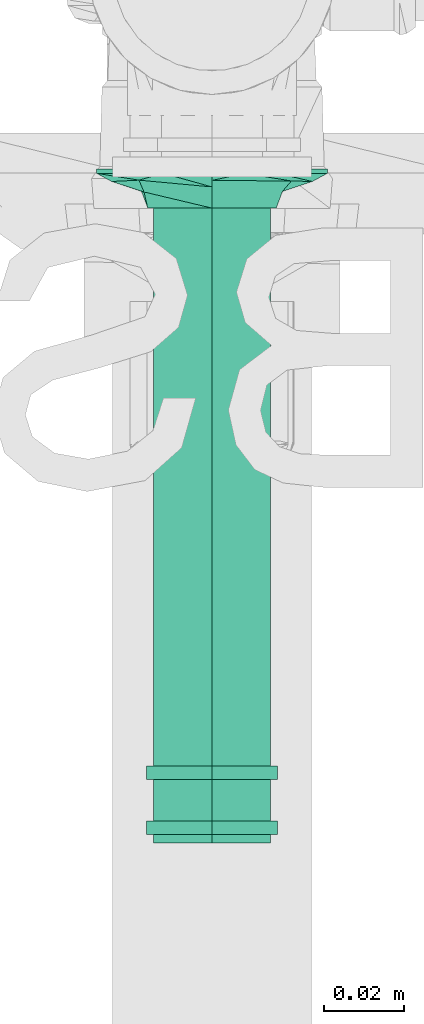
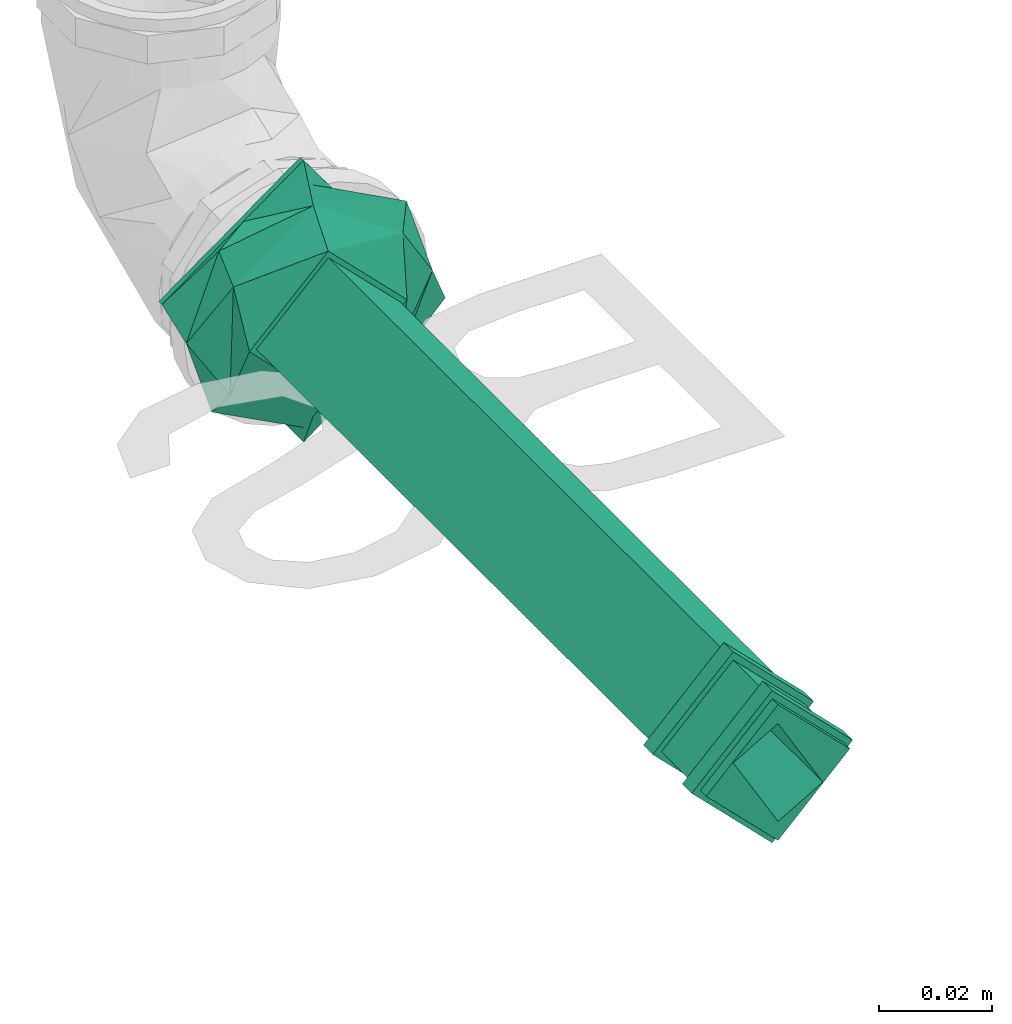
# One storey, part 152 of 589: 1 flow fitting.
"""IFC2X3 building model written with IfcOpenShell, lengths in millimetres."""

from ifc_helpers import new_model, entity, si_unit, converted_unit, derived_unit, direction, frame, origin, place, context, subcontext, project, spatial, faceted_brep, source, transform, mapped, material, type_object, type_shapes, element, save


model = new_model("IFC2X3")

# Units and contexts
model_context = context("Model", 3, precision=0.01, world=origin(), true_north=direction((6.123031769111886e-17, 1.0)))
body_context = subcontext(model_context, "Body", "Model", "MODEL_VIEW")
ifc_project = project(units=[si_unit("LENGTHUNIT", "METRE", prefix="MILLI"), si_unit("AREAUNIT", "SQUARE_METRE"), si_unit("VOLUMEUNIT", "CUBIC_METRE"), converted_unit("PLANEANGLEUNIT", "DEGREE", entity("IfcRatioMeasure", 0.017453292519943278), si_unit("PLANEANGLEUNIT", "RADIAN"), dimensions=[0, 0, 0, 0, 0, 0, 0]), si_unit("MASSUNIT", "GRAM", prefix="KILO"), derived_unit("MASSDENSITYUNIT", [(si_unit("MASSUNIT", "GRAM", prefix="KILO"), 1), (si_unit("LENGTHUNIT", "METRE"), -3)]), derived_unit("IONCONCENTRATIONUNIT", [(si_unit("MASSUNIT", "GRAM", prefix="KILO"), 1), (si_unit("LENGTHUNIT", "METRE"), -3)]), derived_unit("MOMENTOFINERTIAUNIT", [(si_unit("LENGTHUNIT", "METRE"), 4)]), si_unit("TIMEUNIT", "SECOND"), si_unit("FREQUENCYUNIT", "HERTZ"), si_unit("THERMODYNAMICTEMPERATUREUNIT", "DEGREE_CELSIUS"), derived_unit("THERMALTRANSMITTANCEUNIT", [(si_unit("MASSUNIT", "GRAM", prefix="KILO"), 1), (si_unit("THERMODYNAMICTEMPERATUREUNIT", "KELVIN"), -1), (si_unit("TIMEUNIT", "SECOND"), -3)]), derived_unit("THERMALCONDUCTANCEUNIT", [(si_unit("MASSUNIT", "GRAM", prefix="KILO"), 1), (si_unit("THERMODYNAMICTEMPERATUREUNIT", "KELVIN"), -1), (si_unit("TIMEUNIT", "SECOND"), -3), (si_unit("LENGTHUNIT", "METRE"), 1)]), derived_unit("VOLUMETRICFLOWRATEUNIT", [(si_unit("LENGTHUNIT", "METRE"), 3), (si_unit("TIMEUNIT", "SECOND"), -1)]), derived_unit("MASSFLOWRATEUNIT", [(si_unit("MASSUNIT", "GRAM", prefix="KILO"), 1), (si_unit("TIMEUNIT", "SECOND"), -1)]), derived_unit("ROTATIONALFREQUENCYUNIT", [(si_unit("TIMEUNIT", "SECOND"), -1)]), si_unit("ELECTRICCURRENTUNIT", "AMPERE"), si_unit("ELECTRICVOLTAGEUNIT", "VOLT"), si_unit("POWERUNIT", "WATT"), si_unit("FORCEUNIT", "NEWTON", prefix="KILO"), si_unit("ILLUMINANCEUNIT", "LUX"), si_unit("LUMINOUSFLUXUNIT", "LUMEN"), si_unit("LUMINOUSINTENSITYUNIT", "CANDELA"), derived_unit("USERDEFINED", [(si_unit("MASSUNIT", "GRAM", prefix="KILO"), -1), (si_unit("LENGTHUNIT", "METRE"), -2), (si_unit("TIMEUNIT", "SECOND"), 3), (si_unit("LUMINOUSFLUXUNIT", "LUMEN"), 1)]), derived_unit("USERDEFINED", [(si_unit("MASSUNIT", "GRAM", prefix="KILO"), 1), (si_unit("TIMEUNIT", "SECOND"), -3), (si_unit("LENGTHUNIT", "METRE"), 3), (si_unit("ELECTRICCURRENTUNIT", "AMPERE"), -2)]), derived_unit("SOUNDPOWERUNIT", [(si_unit("MASSUNIT", "GRAM", prefix="KILO"), 1), (si_unit("TIMEUNIT", "SECOND"), -3), (si_unit("LENGTHUNIT", "METRE"), 2)]), derived_unit("SOUNDPRESSUREUNIT", [(si_unit("MASSUNIT", "GRAM", prefix="KILO"), 1), (si_unit("LENGTHUNIT", "METRE"), -1), (si_unit("TIMEUNIT", "SECOND"), -2)]), derived_unit("LINEARVELOCITYUNIT", [(si_unit("LENGTHUNIT", "METRE"), 1), (si_unit("TIMEUNIT", "SECOND"), -1)]), si_unit("PRESSUREUNIT", "PASCAL"), derived_unit("USERDEFINED", [(si_unit("MASSUNIT", "GRAM", prefix="KILO"), 1), (si_unit("LENGTHUNIT", "METRE"), -2), (si_unit("TIMEUNIT", "SECOND"), -2)]), derived_unit("LINEARFORCEUNIT", [(si_unit("MASSUNIT", "GRAM", prefix="KILO"), 1), (si_unit("TIMEUNIT", "SECOND"), -2)]), derived_unit("PLANARFORCEUNIT", [(si_unit("MASSUNIT", "GRAM", prefix="KILO"), 1), (si_unit("LENGTHUNIT", "METRE"), -1), (si_unit("TIMEUNIT", "SECOND"), -2)]), derived_unit("SPECIFICHEATCAPACITYUNIT", [(si_unit("THERMODYNAMICTEMPERATUREUNIT", "KELVIN"), -1), (si_unit("LENGTHUNIT", "METRE"), 2), (si_unit("TIMEUNIT", "SECOND"), -2)]), derived_unit("HEATINGVALUEUNIT", [(si_unit("LENGTHUNIT", "METRE"), 2), (si_unit("TIMEUNIT", "SECOND"), -2)]), derived_unit("VAPORPERMEABILITYUNIT", [(si_unit("LENGTHUNIT", "METRE"), -1), (si_unit("TIMEUNIT", "SECOND"), 1)]), derived_unit("DYNAMICVISCOSITYUNIT", [(si_unit("MASSUNIT", "GRAM", prefix="KILO"), 1), (si_unit("TIMEUNIT", "SECOND"), -1), (si_unit("LENGTHUNIT", "METRE"), -1)]), derived_unit("THERMALEXPANSIONCOEFFICIENTUNIT", [(si_unit("THERMODYNAMICTEMPERATUREUNIT", "KELVIN"), -1)]), derived_unit("MODULUSOFELASTICITYUNIT", [(si_unit("MASSUNIT", "GRAM", prefix="KILO"), 1), (si_unit("LENGTHUNIT", "METRE"), -1), (si_unit("TIMEUNIT", "SECOND"), -2)]), derived_unit("ISOTHERMALMOISTURECAPACITYUNIT", [(si_unit("LENGTHUNIT", "METRE"), 3), (si_unit("MASSUNIT", "GRAM", prefix="KILO"), -1)]), derived_unit("MOISTUREDIFFUSIVITYUNIT", [(si_unit("TIMEUNIT", "SECOND"), -1), (si_unit("LENGTHUNIT", "METRE"), 2)])], contexts=[model_context])

# Site, building, storey
site_placement = place(None, origin())
site = spatial("IfcSite", under=ifc_project, at=site_placement, Name="Default", CompositionType="ELEMENT")
building_placement = place(site_placement, origin())
building = spatial("IfcBuilding", under=site, at=building_placement, CompositionType="ELEMENT")
storey_placement = place(building_placement, frame((0.0, 0.0, 100.0)))
storey = spatial("IfcBuildingStorey", under=building, at=storey_placement, Name="TÉRREO", CompositionType="ELEMENT", Elevation=100.0)

# Flow fitting
ifc_material = material(Name="Cromada")
pipe_fitting_type = type_object("IfcPipeFittingType", Name="Tubo de Ligação Inox com anel para vaso sanitário 25cm:Tubo de Ligação Inox com anel para vaso sanitário 25cm", PredefinedType="NOTDEFINED", material=ifc_material)
shared_shape = source(origin(), body_context, "Body", "Brep", [
    faceted_brep([(169.50429906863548, 32.118882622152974, 13.280359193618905), (169.50429906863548, 40.79117842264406, 21.95265499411), (169.50429906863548, 49.46347422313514, 30.624950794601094), (172.4480370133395, 49.46347422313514, 30.624950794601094), (172.4480370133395, 37.891441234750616, 19.052917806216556), (172.4480370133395, 32.118882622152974, 13.280359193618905), (169.50429906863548, 23.446586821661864, 21.95265499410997), (172.4480370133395, 23.446586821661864, 21.95265499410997), (172.4480370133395, 14.774291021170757, 30.624950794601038), (169.50429906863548, 14.774291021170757, 30.624950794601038), (169.50429906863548, 32.11888262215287, 47.96954239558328), (169.50429906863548, 23.44658682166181, 39.297246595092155), (172.4480370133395, 26.346323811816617, 42.196983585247), (172.4480370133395, 32.11888262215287, 47.96954239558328), (169.50429906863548, 40.791178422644, 39.29724659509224), (172.4480370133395, 40.791178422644, 39.29724659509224), (169.50429906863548, 1.5952722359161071, 30.62495079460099), (169.50429906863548, 5.781758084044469, 27.583290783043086), (169.50429906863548, 4.910115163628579, 35.18744066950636), (169.50429906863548, 11.584253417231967, 23.367531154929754), (169.50429906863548, 16.578744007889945, 19.738821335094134), (169.50429906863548, 21.57323459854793, 16.11011151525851), (169.50429906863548, 26.567725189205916, 12.481401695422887), (169.50429906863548, 31.56221577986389, 8.852691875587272), (169.50429906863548, 36.55670637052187, 5.223982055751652), (169.50429906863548, 41.55119696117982, 1.5952722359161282), (169.50429906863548, 44.18760896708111, 5.2239820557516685), (169.50429906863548, 46.82402097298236, 8.852691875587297), (169.50429906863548, 49.46043297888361, 12.481401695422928), (169.50429906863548, 52.09684498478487, 16.110111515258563), (169.50429906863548, 56.012807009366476, 21.499970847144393), (169.50429906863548, 59.32765000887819, 26.062460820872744), (169.50429906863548, 62.642493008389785, 30.624950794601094), (169.50429906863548, 58.45600728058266, 33.666610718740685), (169.50429906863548, 52.65351182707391, 37.882370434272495), (169.50429906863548, 47.65902123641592, 41.511080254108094), (169.50429906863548, 42.66453064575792, 45.139790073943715), (169.50429906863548, 37.67004005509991, 48.76849989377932), (169.50429906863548, 32.67554946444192, 52.39720971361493), (169.50429906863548, 27.681058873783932, 56.025919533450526), (169.50429906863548, 22.686568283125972, 59.654629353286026), (169.50429906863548, 20.0501562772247, 56.025919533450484), (169.50429906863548, 17.41374427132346, 52.39720971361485), (169.50429906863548, 14.777332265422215, 48.76849989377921), (169.50429906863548, 12.140920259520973, 45.139790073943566), (169.50429906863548, 8.224958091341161, 39.749930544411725), (19.27578185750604, 46.84025664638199, 30.624950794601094), (159.6299658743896, 46.84025664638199, 30.624950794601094), (159.6299658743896, 41.249188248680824, 25.03388239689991), (159.6299658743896, 32.118882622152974, 15.903576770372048), (19.27578185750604, 32.118882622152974, 15.903576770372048), (19.27578185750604, 39.479569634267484, 23.26426378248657), (2.0682862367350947, 46.8402566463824, 30.624950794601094), (2.0682862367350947, 39.47956963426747, 23.26426378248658), (2.0682862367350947, 32.11888262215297, 15.903576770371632), (0.0, 32.11888262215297, 15.903576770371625), (0.0, 39.47956963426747, 23.26426378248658), (0.0, 46.840256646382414, 30.624950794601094), (15.901727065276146, 46.84025664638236, 30.624950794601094), (15.901727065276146, 39.47956963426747, 23.26426378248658), (15.901727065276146, 32.11888262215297, 15.903576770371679), (5.4423410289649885, 32.11888262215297, 15.903576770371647), (5.4423410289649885, 39.47956963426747, 23.26426378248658), (5.4423410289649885, 46.840256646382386, 30.624950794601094), (19.27578185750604, 24.758195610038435, 23.264263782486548), (159.6299658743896, 24.758195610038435, 23.264263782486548), (159.6299658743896, 17.3975085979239, 30.624950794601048), (19.27578185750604, 17.3975085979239, 30.624950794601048), (2.0682862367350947, 22.728055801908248, 25.29440359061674), (2.0682862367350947, 17.39750859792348, 30.624950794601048), (0.0, 17.39750859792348, 30.624950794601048), (0.0, 24.75819561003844, 23.26426378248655), (15.901727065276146, 22.728055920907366, 25.294403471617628), (15.901727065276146, 17.397508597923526, 30.624950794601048), (5.4423410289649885, 17.3975085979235, 30.624950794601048), (5.4423410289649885, 24.75819561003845, 23.26426378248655), (19.275781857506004, 24.758195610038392, 37.985637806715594), (159.6299658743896, 22.98857663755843, 36.21601883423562), (159.6299658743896, 32.118882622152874, 45.34632481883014), (19.27578185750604, 32.118882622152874, 45.34632481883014), (2.0682862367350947, 24.758195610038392, 37.98563780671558), (2.0682862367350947, 32.118882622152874, 45.34632481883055), (0.0, 32.118882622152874, 45.34632481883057), (0.0, 24.7581956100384, 37.98563780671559), (15.901727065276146, 24.7581956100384, 37.98563780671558), (15.901727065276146, 32.118882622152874, 45.3463248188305), (5.4423410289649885, 32.118882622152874, 45.34632481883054), (5.4423410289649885, 24.758195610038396, 37.98563780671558), (19.27578185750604, 39.47956963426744, 37.98563780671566), (159.6299658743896, 39.47956963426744, 37.98563780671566), (2.0682862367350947, 41.50970944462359, 35.95549799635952), (0.0, 39.47956963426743, 37.98563780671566), (15.901727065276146, 41.509709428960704, 35.955498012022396), (5.4423410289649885, 39.47956963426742, 37.98563780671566), (0.0, 21.519458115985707, 30.624950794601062), (0.0, 37.41859487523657, 21.44557990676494), (0.0, 26.819170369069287, 39.80432168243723), (0.0, 42.718307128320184, 30.624950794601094), (172.4480370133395, 37.418594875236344, 21.44557990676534), (172.4480370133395, 42.71830712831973, 30.624950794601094), (172.4480370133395, 21.51945811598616, 30.624950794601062), (172.4480370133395, 26.819170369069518, 39.80432168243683), (5.4423410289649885, 15.622913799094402, 30.624950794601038), (5.4423410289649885, 26.90830271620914, 19.33956187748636), (5.4423410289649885, 32.118882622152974, 14.12898197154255), (5.4423410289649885, 23.870898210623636, 38.872935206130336), (5.4423410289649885, 32.11888262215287, 47.12091961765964), (5.4423410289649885, 40.366867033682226, 22.376966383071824), (5.4423410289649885, 48.614851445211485, 30.624950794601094), (5.4423410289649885, 37.3294625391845, 41.910339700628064), (2.0682862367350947, 32.118882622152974, 14.128981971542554), (2.0682862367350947, 40.366867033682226, 22.376966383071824), (2.0682862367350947, 48.614851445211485, 30.624950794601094), (19.27578185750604, 48.614851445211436, 30.624950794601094), (19.27578185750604, 40.3668670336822, 22.376966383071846), (19.27578185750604, 32.118882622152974, 14.128981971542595), (15.901727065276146, 32.11888262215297, 14.1289819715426), (15.901727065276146, 40.3668670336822, 22.376966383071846), (15.901727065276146, 48.614851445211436, 30.624950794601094), (2.0682862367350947, 15.622913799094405, 30.624950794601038), (2.0682862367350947, 23.87089821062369, 22.376966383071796), (19.27578185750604, 26.908302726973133, 19.339561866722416), (19.27578185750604, 15.622913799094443, 30.62495079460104), (15.901727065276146, 15.622913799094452, 30.624950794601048), (15.901727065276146, 23.87089821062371, 22.37696638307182), (2.0682862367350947, 32.11888262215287, 47.12091961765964), (2.0682862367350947, 23.87089821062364, 38.872935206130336), (19.275781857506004, 23.870898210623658, 38.87293520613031), (19.27578185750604, 32.11888262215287, 47.12091961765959), (15.901727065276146, 32.11888262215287, 47.12091961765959), (15.901727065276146, 23.870898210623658, 38.87293520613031), (2.0682862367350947, 40.36686703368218, 38.872935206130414), (19.27578185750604, 37.329462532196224, 41.91033970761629), (15.901727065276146, 40.366867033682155, 38.87293520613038), (168.38578825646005, 41.55119696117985, 1.595272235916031), (168.38578825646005, 44.18760896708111, 5.22398205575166), (168.38578825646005, 46.82402097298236, 8.852691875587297), (168.38578825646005, 49.46043297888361, 12.481401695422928), (168.38578825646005, 52.09684498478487, 16.110111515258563), (168.38578825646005, 53.711986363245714, 18.333162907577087), (168.38578825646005, 54.73325699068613, 19.738821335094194), (168.38578825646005, 57.36966899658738, 23.367531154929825), (168.38578825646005, 59.32765000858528, 26.062460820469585), (168.38578825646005, 62.64249300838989, 30.624950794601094), (168.38578825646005, 1.5952722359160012, 30.62495079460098), (168.38578825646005, 5.781758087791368, 27.583290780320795), (168.38578825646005, 9.968243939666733, 24.5416307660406), (168.38578825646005, 12.874069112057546, 22.430425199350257), (168.38578825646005, 14.15472979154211, 21.499970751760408), (168.38578825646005, 18.34121564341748, 18.458310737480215), (168.38578825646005, 24.143710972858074, 14.24255111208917), (168.38578825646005, 29.946206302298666, 10.02679148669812), (168.38578825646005, 35.74870163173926, 5.81103186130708), (168.38578825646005, 22.686568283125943, 59.654629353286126), (168.38578825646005, 20.050156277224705, 56.02591953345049), (168.38578825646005, 17.413744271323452, 52.397209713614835), (168.38578825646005, 14.777332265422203, 48.76849989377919), (168.38578825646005, 12.140920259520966, 45.13979007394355), (168.38578825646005, 10.525778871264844, 42.91673866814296), (168.38578825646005, 9.504508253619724, 41.51108025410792), (168.38578825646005, 6.86809624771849, 37.88237043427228), (168.38578825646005, 4.910115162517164, 35.18744066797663), (168.38578825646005, 58.45600728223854, 33.66661071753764), (168.38578825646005, 54.2695215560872, 36.708270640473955), (168.38578825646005, 51.36369660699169, 38.819476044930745), (168.38578825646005, 50.08303582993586, 39.749930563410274), (168.38578825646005, 45.89655010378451, 42.79159048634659), (168.38578825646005, 40.09405464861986, 47.00735020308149), (168.38578825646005, 34.29155919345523, 51.22310991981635), (168.38578825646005, 28.489063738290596, 55.43886963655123), (166.65864206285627, 50.44475613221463, 12.263416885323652), (159.6299658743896, 15.96921284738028, 30.62495079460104), (163.8332882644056, 20.75825967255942, 12.912536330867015), (164.9550277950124, 9.359195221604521, 30.62495079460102), (166.32560403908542, 33.03016188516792, 5.39284694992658), (159.6299658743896, 48.26855239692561, 30.624950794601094), (164.9550277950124, 54.878570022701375, 30.624950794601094), (163.6875401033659, 44.02352865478, 13.52475711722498), (159.6299658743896, 32.118882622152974, 14.475281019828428), (166.58567026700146, 58.56876719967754, 30.62495079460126), (166.45278398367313, 16.238491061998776, 10.662693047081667), (166.58567029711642, 5.668997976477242, 30.62495079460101), (166.65864196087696, 13.793009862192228, 48.98648514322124), (166.32560414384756, 31.20760459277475, 55.857054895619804), (163.83328832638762, 43.47950586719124, 48.33736517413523), (163.68754020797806, 20.214236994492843, 47.725144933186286), (159.6299658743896, 32.11888262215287, 46.77462056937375), (166.45278399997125, 47.99927477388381, 50.5872081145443)], [[[0, 1, 2, 3, 4, 5]], [[6, 0, 5, 7, 8, 9]], [[10, 11, 9, 8, 12, 13]], [[14, 10, 13, 15, 3, 2]], [[16, 0, 6]], [[0, 16, 17]], [[16, 6, 9]], [[9, 18, 16]], [[0, 17, 19]], [[0, 19, 20]], [[0, 20, 21]], [[0, 21, 22]], [[0, 22, 23]], [[0, 23, 24]], [[0, 24, 25]], [[25, 1, 0]], [[25, 2, 1]], [[2, 25, 26]], [[2, 26, 27]], [[2, 27, 28]], [[2, 28, 29]], [[2, 29, 30]], [[2, 30, 31]], [[2, 31, 32]], [[32, 14, 2]], [[32, 10, 14]], [[10, 32, 33]], [[10, 33, 34]], [[10, 34, 35]], [[10, 35, 36]], [[10, 36, 37]], [[10, 37, 38]], [[10, 38, 39]], [[10, 39, 40]], [[9, 40, 41]], [[40, 9, 11]], [[40, 11, 10]], [[9, 41, 42]], [[9, 42, 43]], [[9, 43, 44]], [[9, 44, 45]], [[9, 45, 18]], [[46, 47, 48, 49, 50, 51]], [[52, 53, 54, 55, 56, 57]], [[58, 59, 60, 61, 62, 63]], [[64, 50, 49, 65, 66, 67]], [[54, 68, 69, 70, 71, 55]], [[60, 72, 73, 74, 75, 61]], [[76, 67, 66, 77, 78, 79]], [[69, 80, 81, 82, 83, 70]], [[73, 84, 85, 86, 87, 74]], [[88, 79, 78, 89, 47, 46]], [[81, 90, 52, 57, 91, 82]], [[85, 92, 58, 63, 93, 86]], [[94, 55, 71]], [[55, 94, 95]], [[94, 71, 70]], [[70, 96, 94]], [[95, 56, 55]], [[95, 57, 56]], [[95, 97, 57]], [[82, 97, 96]], [[97, 82, 91]], [[97, 91, 57]], [[96, 70, 83]], [[96, 83, 82]], [[98, 99, 97, 95]], [[94, 100, 98, 95]], [[101, 100, 94, 96]], [[97, 99, 101, 96]], [[100, 8, 7]], [[100, 101, 8]], [[100, 7, 5]], [[98, 100, 5]], [[101, 12, 8]], [[101, 13, 12]], [[101, 99, 13]], [[3, 99, 98]], [[99, 3, 15]], [[99, 15, 13]], [[98, 5, 4]], [[98, 4, 3]], [[74, 102, 103]], [[74, 103, 104]], [[104, 75, 74]], [[74, 105, 102]], [[74, 106, 105]], [[106, 74, 87]], [[106, 87, 86]], [[106, 86, 93]], [[106, 93, 63]], [[63, 104, 107]], [[104, 63, 62]], [[63, 107, 108]], [[63, 108, 109]], [[63, 109, 106]], [[104, 62, 61]], [[104, 61, 75]], [[108, 107, 104, 110, 111, 112]], [[113, 114, 115, 116, 117, 118]], [[110, 104, 103, 102, 119, 120]], [[116, 115, 121, 122, 123, 124]], [[102, 105, 106, 125, 126, 119]], [[122, 127, 128, 129, 130, 123]], [[125, 106, 109, 108, 112, 131]], [[129, 128, 132, 113, 118, 133]], [[69, 110, 120]], [[110, 69, 68]], [[69, 120, 119]], [[69, 119, 126]], [[69, 126, 125]], [[125, 80, 69]], [[110, 68, 54]], [[110, 54, 53]], [[110, 53, 52]], [[52, 125, 131]], [[125, 52, 90]], [[52, 111, 110]], [[52, 112, 111]], [[52, 131, 112]], [[125, 90, 81]], [[125, 81, 80]], [[27, 26, 25, 134, 135, 136, 137, 138, 139, 140, 141, 142, 143, 32, 31, 30, 29, 28]], [[19, 17, 16, 144, 145, 146, 147, 148, 149, 150, 151, 152, 134, 25, 24, 23, 22, 21, 20]], [[42, 41, 40, 153, 154, 155, 156, 157, 158, 159, 160, 161, 144, 16, 18, 45, 44, 43]], [[32, 143, 162, 163, 164, 165, 166, 167, 168, 169, 153, 40, 39, 38, 37, 36, 35, 34, 33]], [[170, 139, 138, 137, 136, 135, 134]], [[171, 172, 173]], [[174, 170, 134]], [[175, 176, 177]], [[177, 178, 175]], [[142, 141, 140, 139, 176, 179, 143]], [[174, 172, 177]], [[178, 177, 172]], [[174, 180, 172]], [[178, 172, 171]], [[174, 134, 152, 151, 150]], [[174, 150, 180]], [[170, 177, 176]], [[181, 180, 147]], [[177, 170, 174]], [[139, 170, 176]], [[181, 173, 180]], [[173, 172, 180]], [[180, 150, 149, 148, 147]], [[181, 147, 146, 145, 144]], [[182, 158, 157, 156, 155, 154, 153]], [[183, 184, 185]], [[183, 182, 153]], [[171, 173, 185]], [[185, 186, 171]], [[175, 184, 176]], [[183, 187, 184]], [[186, 185, 184]], [[179, 187, 164]], [[186, 184, 175]], [[183, 153, 169, 168, 167]], [[183, 167, 187]], [[182, 185, 173]], [[161, 160, 159, 158, 173, 181, 144]], [[185, 182, 183]], [[158, 182, 173]], [[179, 176, 187]], [[176, 184, 187]], [[187, 167, 166, 165, 164]], [[179, 164, 163, 162, 143]], [[178, 171, 66]], [[178, 66, 65]], [[178, 65, 49]], [[178, 49, 48]], [[178, 48, 47]], [[178, 47, 175]], [[186, 66, 171]], [[186, 175, 47]], [[186, 47, 89]], [[186, 77, 66]], [[186, 78, 77]], [[186, 89, 78]], [[67, 122, 121]], [[67, 121, 115]], [[115, 64, 67]], [[67, 127, 122]], [[67, 128, 127]], [[128, 67, 76]], [[128, 76, 79]], [[128, 79, 88]], [[128, 88, 46]], [[46, 115, 114]], [[115, 46, 51]], [[46, 114, 113]], [[46, 113, 132]], [[46, 132, 128]], [[115, 51, 50]], [[115, 50, 64]], [[73, 116, 124]], [[116, 73, 72]], [[73, 124, 123]], [[73, 123, 130]], [[73, 130, 129]], [[129, 84, 73]], [[116, 72, 60]], [[116, 60, 59]], [[116, 59, 58]], [[58, 129, 133]], [[129, 58, 92]], [[58, 117, 116]], [[58, 118, 117]], [[58, 133, 118]], [[129, 92, 85]], [[129, 85, 84]]]),
])
type_shapes(pipe_fitting_type, [shared_shape])
flow_fitting_placement = place(storey_placement, frame((8767.517237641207, -8184.979320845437, 347.8811173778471), z_axis=(1.0, 0.0, 0.0), x_axis=(0.0, 1.0, 0.0)))
element("IfcFlowFitting", 1, at=flow_fitting_placement, inside=storey, type_object=pipe_fitting_type, material=ifc_material, Name="Tubo de Ligação Inox com anel para vaso sanitário 25cm:Tubo de Ligação Inox com anel para vaso sanitário 25cm", ObjectType="Tubo de Ligação Inox com anel para vaso sanitário 25cm:Tubo de Ligação Inox com anel para vaso sanitário 25cm", context=body_context, shape_type="MappedRepresentation", body=[
    mapped(shared_shape, transform((0.0, 0.0, 0.0), scale=1.0)),
])

save(model, "model.ifc")
